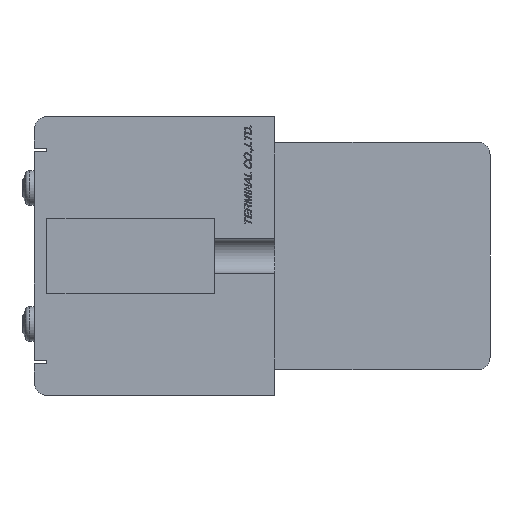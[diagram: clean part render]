
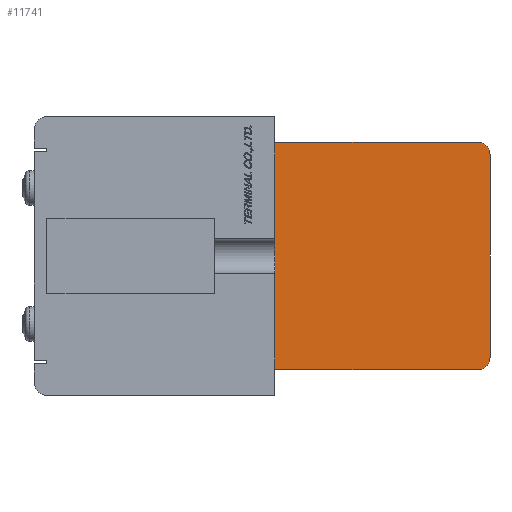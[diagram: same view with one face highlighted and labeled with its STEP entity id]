
A CAD part, left-side view. The second image highlights one B-rep face of the part: STEP entity #11741.
In plain terms, the highlighted planar face has unit normal (-1, 0, 0).
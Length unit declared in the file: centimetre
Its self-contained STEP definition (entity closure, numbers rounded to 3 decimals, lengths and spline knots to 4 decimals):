
#719=PLANE('',#12609);
#1051=CIRCLE('',#12604,0.2);
#1052=CIRCLE('',#12607,0.2);
#2195=VERTEX_POINT('',#19029);
#2196=VERTEX_POINT('',#19031);
#2203=VERTEX_POINT('',#19063);
#2204=VERTEX_POINT('',#19067);
#2205=VERTEX_POINT('',#19071);
#2206=VERTEX_POINT('',#19075);
#3340=VECTOR('',#14964,1.);
#3353=VECTOR('',#14992,1.);
#3356=VECTOR('',#15000,1.);
#3359=VECTOR('',#15008,1.);
#4474=LINE('',#19032,#3340);
#4487=LINE('',#19062,#3353);
#4490=LINE('',#19070,#3356);
#4493=LINE('',#19078,#3359);
#6124=EDGE_CURVE('',#2196,#2195,#4474,.T.);
#6139=EDGE_CURVE('',#2195,#2203,#4487,.T.);
#6141=EDGE_CURVE('',#2203,#2204,#1051,.T.);
#6143=EDGE_CURVE('',#2204,#2205,#4490,.T.);
#6145=EDGE_CURVE('',#2205,#2206,#1052,.T.);
#6147=EDGE_CURVE('',#2206,#2196,#4493,.T.);
#9451=ORIENTED_EDGE('',*,*,#6124,.F.);
#9452=ORIENTED_EDGE('',*,*,#6147,.F.);
#9453=ORIENTED_EDGE('',*,*,#6145,.F.);
#9454=ORIENTED_EDGE('',*,*,#6143,.F.);
#9455=ORIENTED_EDGE('',*,*,#6141,.F.);
#9456=ORIENTED_EDGE('',*,*,#6139,.F.);
#10337=EDGE_LOOP('',(#9451,#9452,#9453,#9454,#9455,#9456));
#11088=FACE_BOUND('',#10337,.T.);
#11741=ADVANCED_FACE('',(#11088),#719,.F.);
#12604=AXIS2_PLACEMENT_3D('',#19066,#14996,#14997);
#12607=AXIS2_PLACEMENT_3D('',#19074,#15004,#15005);
#12609=AXIS2_PLACEMENT_3D('',#19079,#15009,$);
#14964=DIRECTION('',(0.,0.,1.));
#14992=DIRECTION('',(0.,-1.,0.));
#14996=DIRECTION('',(1.,0.,0.));
#14997=DIRECTION('',(0.,0.,-0.2));
#15000=DIRECTION('',(0.,0.,-1.));
#15004=DIRECTION('',(1.,0.,0.));
#15005=DIRECTION('',(0.,0.,-0.2));
#15008=DIRECTION('',(0.,1.,0.));
#15009=DIRECTION('',(1.,0.,0.));
#19029=CARTESIAN_POINT('',(-0.4,0.,1.8));
#19031=CARTESIAN_POINT('',(-0.4,0.,-1.8));
#19032=CARTESIAN_POINT('',(-0.4,0.,1.8));
#19062=CARTESIAN_POINT('',(-0.4,-3.2,1.8));
#19063=CARTESIAN_POINT('',(-0.4,-3.2,1.8));
#19066=CARTESIAN_POINT('',(-0.4,-3.2,1.6));
#19067=CARTESIAN_POINT('',(-0.4,-3.4,1.6));
#19070=CARTESIAN_POINT('',(-0.4,-3.4,-1.6));
#19071=CARTESIAN_POINT('',(-0.4,-3.4,-1.6));
#19074=CARTESIAN_POINT('',(-0.4,-3.2,-1.6));
#19075=CARTESIAN_POINT('',(-0.4,-3.2,-1.8));
#19078=CARTESIAN_POINT('',(-0.4,0.,-1.8));
#19079=CARTESIAN_POINT('',(-0.4,-1.6784,0.));
